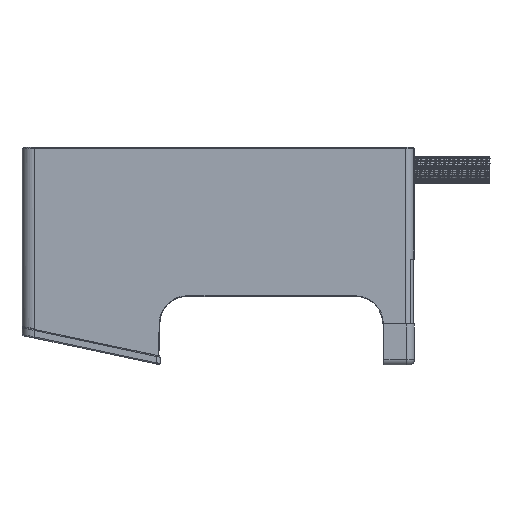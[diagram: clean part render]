
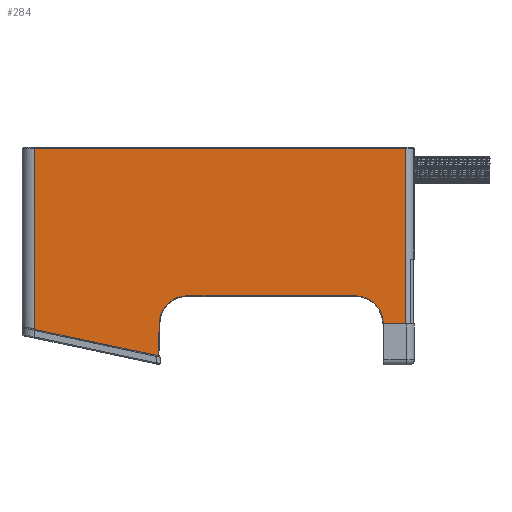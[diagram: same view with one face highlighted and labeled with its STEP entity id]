
A CAD part, left-side view. The second image highlights one B-rep face of the part: STEP entity #284.
In plain terms, the highlighted planar face has unit normal (-1, 0, 0).
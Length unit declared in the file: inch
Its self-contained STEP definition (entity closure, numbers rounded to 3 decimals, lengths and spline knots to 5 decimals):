
#284 = ADVANCED_FACE ( 'NONE', ( #28376 ), #33992, .T. ) ;
#1298 = ORIENTED_EDGE ( 'NONE', *, *, #15035, .T. ) ;
#1483 = CIRCLE ( 'NONE', #24226, 1.28 ) ;
#2326 = CARTESIAN_POINT ( 'NONE',  ( -4.81, 1.4, -5.35625 ) ) ;
#3194 = EDGE_CURVE ( 'NONE', #37097, #11220, #22605, .T. ) ;
#3443 = VERTEX_POINT ( 'NONE', #27378 ) ;
#3689 = LINE ( 'NONE', #7571, #11531 ) ;
#4120 = VECTOR ( 'NONE', #26112, 39.37008 ) ;
#4369 = CARTESIAN_POINT ( 'NONE',  ( -4.81, 2.68, -5.35625 ) ) ;
#5539 = EDGE_CURVE ( 'NONE', #17587, #37097, #1483, .T. ) ;
#7571 = CARTESIAN_POINT ( 'NONE',  ( -4.81, 17.57203, -5.35625 ) ) ;
#8137 = CARTESIAN_POINT ( 'NONE',  ( -4.81, 10.5, -5.35625 ) ) ;
#8527 = EDGE_CURVE ( 'NONE', #20613, #35142, #11882, .T. ) ;
#9067 = CARTESIAN_POINT ( 'NONE',  ( -4.81, 17.617, -5.62048 ) ) ;
#9244 = LINE ( 'NONE', #11691, #4120 ) ;
#9302 = EDGE_LOOP ( 'NONE', ( #31949, #16398, #22523, #35264, #1298, #26917, #22764, #20242, #21604 ) ) ;
#10351 = EDGE_CURVE ( 'NONE', #20613, #12552, #3689, .T. ) ;
#11172 = CARTESIAN_POINT ( 'NONE',  ( -4.81, 2.68, -4.07625 ) ) ;
#11220 = VERTEX_POINT ( 'NONE', #30327 ) ;
#11531 = VECTOR ( 'NONE', #27085, 39.37008 ) ;
#11691 = CARTESIAN_POINT ( 'NONE',  ( -4.81, 0.375, 2.76875 ) ) ;
#11882 = LINE ( 'NONE', #9067, #34579 ) ;
#11912 = DIRECTION ( 'NONE',  ( 0., 0., 1. ) ) ;
#12552 = VERTEX_POINT ( 'NONE', #29782 ) ;
#13383 = LINE ( 'NONE', #24816, #29742 ) ;
#15035 = EDGE_CURVE ( 'NONE', #11220, #36381, #20872, .T. ) ;
#16009 = DIRECTION ( 'NONE',  ( 0., -1., 0. ) ) ;
#16398 = ORIENTED_EDGE ( 'NONE', *, *, #17527, .T. ) ;
#16935 = LINE ( 'NONE', #24803, #31745 ) ;
#17211 = CARTESIAN_POINT ( 'NONE',  ( -4.81, 17.57203, -5.63004 ) ) ;
#17527 = EDGE_CURVE ( 'NONE', #35142, #17587, #16935, .T. ) ;
#17587 = VERTEX_POINT ( 'NONE', #20295 ) ;
#18363 = CARTESIAN_POINT ( 'NONE',  ( -4.81, 10.5, -4.07625 ) ) ;
#18457 = CARTESIAN_POINT ( 'NONE',  ( -4.81, 0., 2.76875 ) ) ;
#19048 = DIRECTION ( 'NONE',  ( 0., -1., 0. ) ) ;
#19897 = CARTESIAN_POINT ( 'NONE',  ( -4.81, 0.375, 2.76875 ) ) ;
#20242 = ORIENTED_EDGE ( 'NONE', *, *, #36238, .T. ) ;
#20295 = CARTESIAN_POINT ( 'NONE',  ( -4.81, 11.77922, -5.31158 ) ) ;
#20613 = VERTEX_POINT ( 'NONE', #17211 ) ;
#20711 = DIRECTION ( 'NONE',  ( 1., 0., 0. ) ) ;
#20872 = CIRCLE ( 'NONE', #21450, 1.28 ) ;
#21287 = VERTEX_POINT ( 'NONE', #19897 ) ;
#21450 = AXIS2_PLACEMENT_3D ( 'NONE', #4369, #23509, #34915 ) ;
#21604 = ORIENTED_EDGE ( 'NONE', *, *, #10351, .F. ) ;
#22523 = ORIENTED_EDGE ( 'NONE', *, *, #5539, .T. ) ;
#22605 = LINE ( 'NONE', #11172, #29364 ) ;
#22764 = ORIENTED_EDGE ( 'NONE', *, *, #30704, .T. ) ;
#23509 = DIRECTION ( 'NONE',  ( 1., 0., 0. ) ) ;
#24226 = AXIS2_PLACEMENT_3D ( 'NONE', #26685, #20711, #11912 ) ;
#24803 = CARTESIAN_POINT ( 'NONE',  ( -4.81, 11.78884, -5.58691 ) ) ;
#24816 = CARTESIAN_POINT ( 'NONE',  ( -4.81, 0., -5.35625 ) ) ;
#25541 = VECTOR ( 'NONE', #29667, 39.37008 ) ;
#25765 = DIRECTION ( 'NONE',  ( 0., 0., 1. ) ) ;
#26112 = DIRECTION ( 'NONE',  ( 0., 0., 1. ) ) ;
#26481 = DIRECTION ( 'NONE',  ( 0., -0.978, -0.208 ) ) ;
#26685 = CARTESIAN_POINT ( 'NONE',  ( -4.81, 10.5, -5.35625 ) ) ;
#26888 = LINE ( 'NONE', #18457, #25541 ) ;
#26917 = ORIENTED_EDGE ( 'NONE', *, *, #27519, .T. ) ;
#27085 = DIRECTION ( 'NONE',  ( 0., 0., 1. ) ) ;
#27378 = CARTESIAN_POINT ( 'NONE',  ( -4.81, 0.375, -5.35625 ) ) ;
#27519 = EDGE_CURVE ( 'NONE', #36381, #3443, #13383, .T. ) ;
#28376 = FACE_OUTER_BOUND ( 'NONE', #9302, .T. ) ;
#29364 = VECTOR ( 'NONE', #19048, 39.37008 ) ;
#29667 = DIRECTION ( 'NONE',  ( 0., 1., 0. ) ) ;
#29742 = VECTOR ( 'NONE', #16009, 39.37008 ) ;
#29782 = CARTESIAN_POINT ( 'NONE',  ( -4.81, 17.57203, 2.76875 ) ) ;
#30327 = CARTESIAN_POINT ( 'NONE',  ( -4.81, 2.68, -4.07625 ) ) ;
#30462 = CARTESIAN_POINT ( 'NONE',  ( -4.81, 11.83294, -6.84992 ) ) ;
#30704 = EDGE_CURVE ( 'NONE', #3443, #21287, #9244, .T. ) ;
#31184 = DIRECTION ( 'NONE',  ( -1., 0., 0. ) ) ;
#31745 = VECTOR ( 'NONE', #36211, 39.37008 ) ;
#31949 = ORIENTED_EDGE ( 'NONE', *, *, #8527, .T. ) ;
#32596 = AXIS2_PLACEMENT_3D ( 'NONE', #8137, #31184, #25765 ) ;
#33992 = PLANE ( 'NONE',  #32596 ) ;
#34579 = VECTOR ( 'NONE', #26481, 39.37008 ) ;
#34915 = DIRECTION ( 'NONE',  ( 0., 0., 1. ) ) ;
#35142 = VERTEX_POINT ( 'NONE', #30462 ) ;
#35264 = ORIENTED_EDGE ( 'NONE', *, *, #3194, .T. ) ;
#36211 = DIRECTION ( 'NONE',  ( 0., -0.035, 0.999 ) ) ;
#36238 = EDGE_CURVE ( 'NONE', #21287, #12552, #26888, .T. ) ;
#36381 = VERTEX_POINT ( 'NONE', #2326 ) ;
#37097 = VERTEX_POINT ( 'NONE', #18363 ) ;
